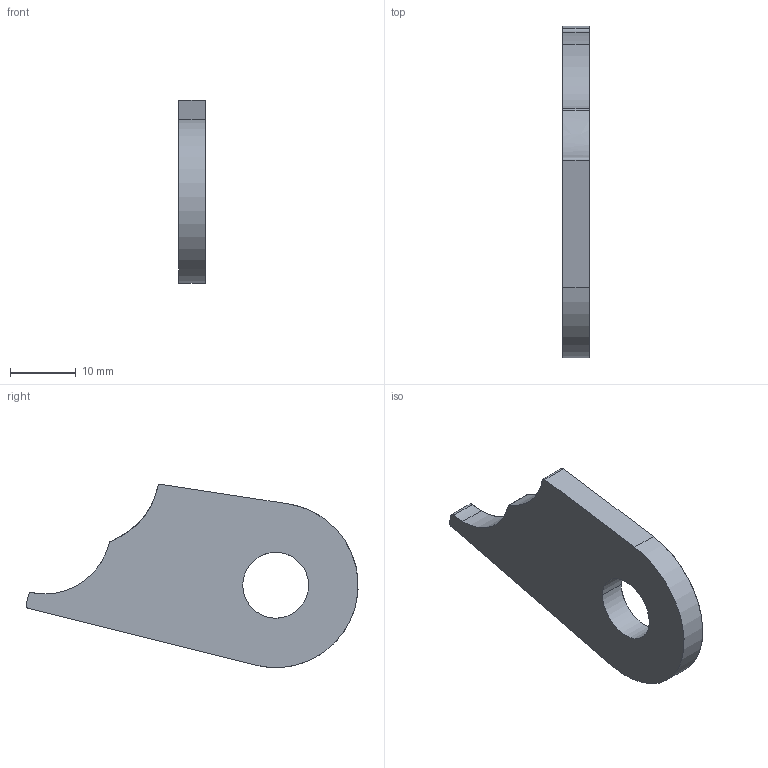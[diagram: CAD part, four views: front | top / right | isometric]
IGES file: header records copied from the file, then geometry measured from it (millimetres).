
Start section: START RECORD GO HERE.
Global section: file name: 20M_DT_URL.igs; native system: IBM CATIA IGES - CATIA Version 5 Release 19 ; preprocessor: CATIA Version 5 Release 19 ; author: alexb; organization: LAPTOP-PR6NE7IP; date: 20191217.144159; units: millimetre
Bounding box: 4 x 50.38 x 27.8 mm (x, y, z)
Surface area: 2225.1 mm2 (no closed solid volume)
Topology: 0 solids, 0 shells, 15 faces, 78 edges, 78 vertices
Faces by surface type: revolution 9, plane 5, extrusion 1
